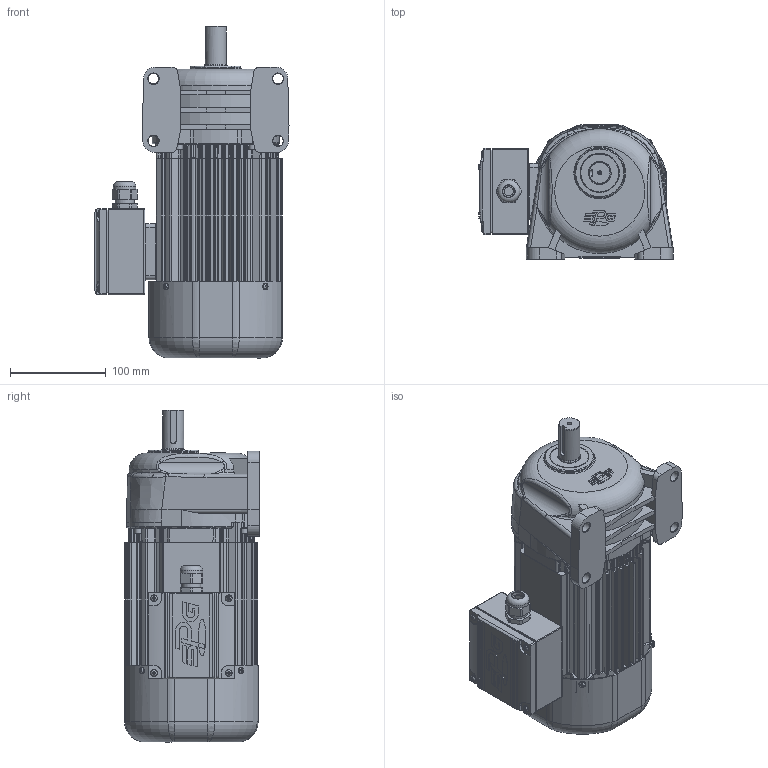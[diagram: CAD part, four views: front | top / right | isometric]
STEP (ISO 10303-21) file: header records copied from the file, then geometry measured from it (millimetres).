
FILE_DESCRIPTION(/* description */ (''),/* implementation_level */ '2;1');
FILE_NAME(/* name */ 'Z:\동력 3D 파일\PAL22-(5~25)-MC(D)040[ ]L_(3D).stp',/* time_stamp */ '2021-10-18T16:44:59+09:00',/* author */ ('jaebok'),/* organization */ (''),/* preprocessor_version */ 'ST-DEVELOPER v18.1',/* originating_system */ 'Autodesk Inventor 2022',/* authorisation */ '');
FILE_SCHEMA (('AUTOMOTIVE_DESIGN { 1 0 10303 214 3 1 1 }'));
Products named in the file (1): 부품5
Bounding box: 202.5 x 140.7 x 346.5 mm (x, y, z)
Volume: 1637425.5 mm3; surface area: 575661.5 mm2
Topology: 3 solids, 26 shells, 3096 faces, 7858 edges, 4755 vertices
Faces by surface type: plane 1055, cylinder 899, bspline 675, torus 232, cone 163, sphere 72
Full cylindrical faces by diameter (mm): 1.5 x2, 2 x5, 3 x8, 3.242 x5, 3.25 x1, 3.3 x4, 3.6 x4, 3.8 x3, 4 x25, 4.2 x12, 4.917 x4, 5 x25, 5.5 x4, 5.8 x2, 5.9 x3, 6 x14, 6.4 x1, 6.5 x6, 7 x12, 7.9 x6, 8 x7, 8.5 x5, 8.7 x1, 10 x1, 11 x4, 12.5 x1, 14 x1, 15 x1, 15.5 x1, 18 x1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
Entity records: 122437 total; most frequent: CARTESIAN_POINT 48981, ORIENTED_EDGE 15374, DIRECTION 13956, EDGE_CURVE 7687, AXIS2_PLACEMENT_3D 5590, VERTEX_POINT 4748, EDGE_LOOP 3358, FACE_OUTER_BOUND 3096
